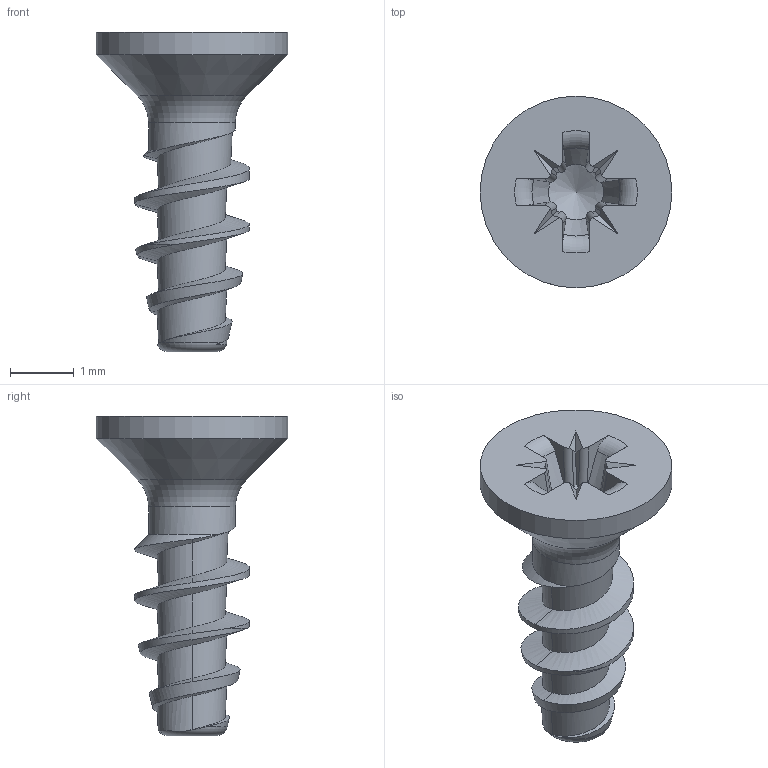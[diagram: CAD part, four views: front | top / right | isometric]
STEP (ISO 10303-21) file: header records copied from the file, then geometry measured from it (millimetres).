
FILE_DESCRIPTION(/* description */ (''),/* implementation_level */ '2;1');
FILE_NAME(/* name */ 'KN1033-STS-18x5-Z0.step',/* time_stamp */ '2017-10-30T15:31:13+01:00',/* author */ (''),/* organization */ (''),/* preprocessor_version */ 'ST-DEVELOPER v16',/* originating_system */ 'SIEMENS PLM Software NX 10.0',/* authorisation */ '');
FILE_SCHEMA (('AUTOMOTIVE_DESIGN { 1 0 10303 214 3 1 1 1 }'));
Length unit declared in the file: millimetre
Products named in the file (1): KN1033-STS-18x5-Z0
Bounding box: 3 x 3 x 5 mm (x, y, z)
Volume: 9.7 mm3; surface area: 43.1 mm2
Topology: 1 solids, 1 shells, 67 faces, 181 edges, 116 vertices
Faces by surface type: plane 27, bspline 15, cylinder 11, cone 8, torus 6
Full cylindrical faces by diameter (mm): 1.36 x1, 3 x1
Entity records: 3174 total; most frequent: CARTESIAN_POINT 1679, ORIENTED_EDGE 340, DIRECTION 242, EDGE_CURVE 170, VERTEX_POINT 112, AXIS2_PLACEMENT_3D 91, EDGE_LOOP 73, B_SPLINE_CURVE_WITH_KNOTS 72
